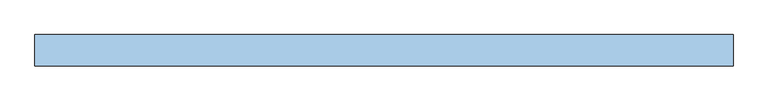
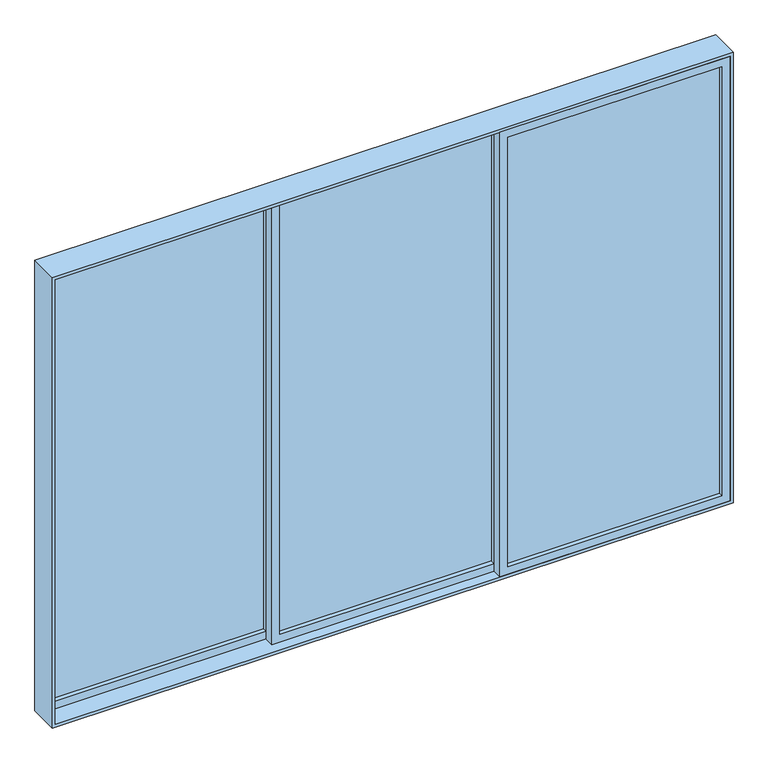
"""IFC4 building model written with IfcOpenShell, lengths in millimetres: window geometry, VENT_ALUM_CORR_3HOJAS_CORRE 1 : V9-VENT_ALUM_CORR_3HOJAS_CORRE 1 - SALA PT DER."""

from ifc_helpers import new_model, si_unit, frame, origin, place, context, project, spatial, polyline, outline, extrude, source, transform, mapped, element, save


def window_1067b7f7(model_context):
    return source(origin(), model_context, "Body", "SweptSolid", [
        extrude(outline(polyline([(-1625.0, 47.0), (-1625.0, 53.0), (-568.3333333, 53.0), (-568.3333333, 47.0), (-1625.0, 47.0)])), frame((0.0, 0.0, 855.0), z_axis=(0.0, 0.0, 1.0), x_axis=(1.0, 0.0, 0.0)), (0.0, 0.0, 1.0), 2240.0),
        extrude(outline(polyline([(3135.0, -1665.0), (815.0, -1665.0), (815.0, -528.3333333), (3135.0, -528.3333333), (3135.0, -1665.0)]), holes=[polyline([(855.0, -1625.0), (3095.0, -1625.0), (3095.0, -568.3333333), (855.0, -568.3333333), (855.0, -1625.0)])]), frame((0.0, 25.0, 0.0), z_axis=(0.0, 1.0, 0.0), x_axis=(0.0, 0.0, 1.0)), (0.0, 0.0, 1.0), 50.0),
        extrude(outline(polyline([(-528.3333333, -3.0), (-528.3333333, 3.0), (528.3333333, 3.0), (528.3333333, -3.0), (-528.3333333, -3.0)])), frame((0.0, 0.0, 855.0), z_axis=(0.0, 0.0, 1.0), x_axis=(1.0, 0.0, 0.0)), (0.0, 0.0, 1.0), 2240.0),
        extrude(outline(polyline([(3135.0, -568.3333333), (815.0, -568.3333333), (815.0, 568.3333333), (3135.0, 568.3333333), (3135.0, -568.3333333)]), holes=[polyline([(855.0, -528.3333333), (3095.0, -528.3333333), (3095.0, 528.3333333), (855.0, 528.3333333), (855.0, -528.3333333)])]), frame((0.0, -25.0, 0.0), z_axis=(0.0, 1.0, 0.0), x_axis=(0.0, 0.0, 1.0)), (0.0, 0.0, 1.0), 50.0),
        extrude(outline(polyline([(568.3333333, -53.0), (568.3333333, -47.0), (1625.0, -47.0), (1625.0, -53.0), (568.3333333, -53.0)])), frame((0.0, 0.0, 855.0), z_axis=(0.0, 0.0, 1.0), x_axis=(1.0, 0.0, 0.0)), (0.0, 0.0, 1.0), 2240.0),
        extrude(outline(polyline([(3135.0, 528.3333333), (815.0, 528.3333333), (815.0, 1665.0), (3135.0, 1665.0), (3135.0, 528.3333333)]), holes=[polyline([(855.0, 568.3333333), (3095.0, 568.3333333), (3095.0, 1625.0), (855.0, 1625.0), (855.0, 568.3333333)])]), frame((0.0, -75.0, 0.0), z_axis=(0.0, 1.0, 0.0), x_axis=(0.0, 0.0, 1.0)), (0.0, 0.0, 1.0), 50.0),
        extrude(outline(polyline([(3150.0, -1680.0), (800.0, -1680.0), (800.0, 1680.0), (3150.0, 1680.0), (3150.0, -1680.0)]), holes=[polyline([(815.0, -1665.0), (3135.0, -1665.0), (3135.0, 1665.0), (815.0, 1665.0), (815.0, -1665.0)])]), frame((0.0, -75.0, 0.0), z_axis=(0.0, 1.0, 0.0), x_axis=(0.0, 0.0, 1.0)), (0.0, 0.0, 1.0), 150.0),
    ])


if __name__ == "__main__":
    model = new_model("IFC4")
    model_context = context("Model", 3, world=origin())
    ifc_project = project(units=[si_unit("LENGTHUNIT", "METRE", prefix="MILLI")], contexts=[model_context])
    site = spatial("IfcSite", under=ifc_project)
    building = spatial("IfcBuilding", under=site)
    placement = place(None, origin())
    window_shape = window_1067b7f7(model_context)
    element("IfcWindow", 1, ObjectType="VENT_ALUM_CORR_3HOJAS_CORRE 1 : V9-VENT_ALUM_CORR_3HOJAS_CORRE 1 - SALA PT DER", at=placement, inside=building, context=model_context, shape_type="MappedRepresentation", body=[
        mapped(window_shape, transform((0.0, 0.0, 0.0), x_axis=(1.0, 0.0, 0.0), y_axis=(0.0, 1.0, 0.0), z_axis=(0.0, 0.0, 1.0))),
    ])
    save(model, "model.ifc")
